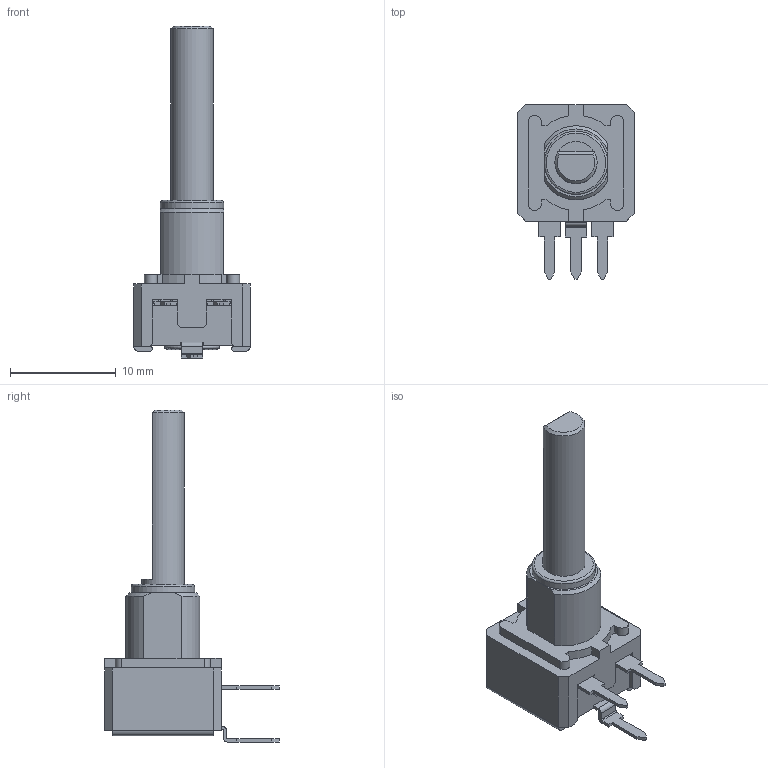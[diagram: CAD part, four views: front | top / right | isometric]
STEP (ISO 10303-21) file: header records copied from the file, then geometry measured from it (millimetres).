
FILE_DESCRIPTION(/* description */ (''),/* implementation_level */ '2;1');
FILE_NAME(/* name */ 'C:\Users\CEM\Desktop\ENVIAR\TRANSICION 3D CATALOGOS\MCA9DH5 WT-9020-NE.stp',/* time_stamp */ '2025-11-20T10:51:03+01:00',/* author */ ('CEM'),/* organization */ (''),/* preprocessor_version */ 'ST-DEVELOPER v16.13',/* originating_system */ 'Autodesk Inventor 2018',/* authorisation */ '');
FILE_SCHEMA (('AUTOMOTIVE_DESIGN { 1 0 10303 214 3 1 1 }'));
Length unit declared in the file: millimetre
Products named in the file (1): MCA9DH5 WT-9020-NE
Bounding box: 11 x 16.5 x 31.4 mm (x, y, z)
Volume: 936.4 mm3; surface area: 2039.9 mm2
Topology: 1 solids, 2 shells, 735 faces, 2068 edges, 1317 vertices
Faces by surface type: plane 572, cylinder 117, torus 24, cone 22
Full cylindrical faces by diameter (mm): 2.8 x1, 3 x1, 3.1 x1, 4 x3, 4.15 x1, 4.7 x1, 4.8 x1, 5 x1, 6 x1
Entity records: 24117 total; most frequent: CARTESIAN_POINT 4266, ORIENTED_EDGE 4086, DIRECTION 3840, EDGE_CURVE 2039, LINE 1626, VECTOR 1626, VERTEX_POINT 1309, AXIS2_PLACEMENT_3D 1107
